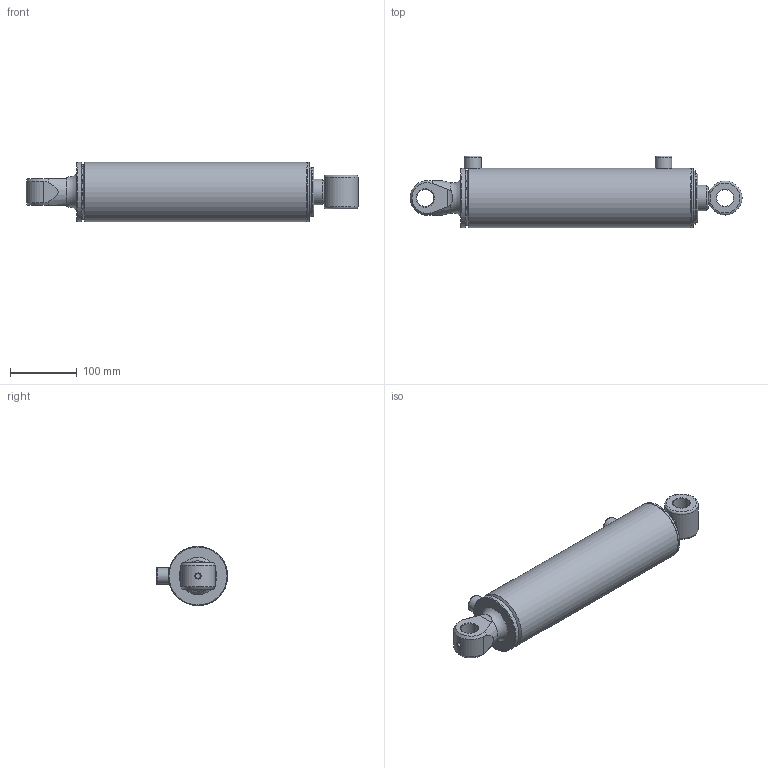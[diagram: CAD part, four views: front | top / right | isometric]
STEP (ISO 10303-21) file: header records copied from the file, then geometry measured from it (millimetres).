
FILE_DESCRIPTION(/* description */ ('Alibre Inc.'),/* implementation_level */ '2;1');
FILE_NAME(/* name */ 'export0',/* time_stamp */ '2016-08-16T09:59:53+12:00',/* author */ (''),/* organization */ (''),/* preprocessor_version */ 'ST-DEVELOPER v14',/* originating_system */ 'Alibre',/* authorisation */ '');
FILE_SCHEMA (('AUTOMOTIVE_DESIGN'));
Length unit declared in the file: centimetre
Bounding box: 497.13 x 106.9 x 88.9 mm (x, y, z)
Volume: 1468265.4 mm3; surface area: 335589.9 mm2
Topology: 12 solids, 12 shells, 157 faces, 332 edges, 209 vertices
Faces by surface type: cylinder 61, plane 57, cone 23, torus 13, sphere 2, bspline 1
Full cylindrical faces by diameter (mm): 7 x1, 8.3 x2, 8.8 x1, 9.525 x2, 15.25 x2, 23 x1, 23.622 x1, 25 x2, 25.4 x2, 25.451 x1, 38.1 x2, 38.18 x2, 44.45 x1, 46.9 x2, 47.62 x2, 50.8 x1, 60.33 x1, 69.2 x1, 70.36 x1, 71.6 x2, 72.57 x2, 72.87 x1, 74.83 x2, 76.09 x2, 76.1 x1, 76.2 x2, 79.4 x1, 88.9 x3
Entity records: 4365 total; most frequent: CARTESIAN_POINT 1210, DIRECTION 599, ORIENTED_EDGE 456, AXIS2_PLACEMENT_3D 310, FACE_BOUND 271, EDGE_LOOP 269, EDGE_CURVE 228, VERTEX_POINT 191
